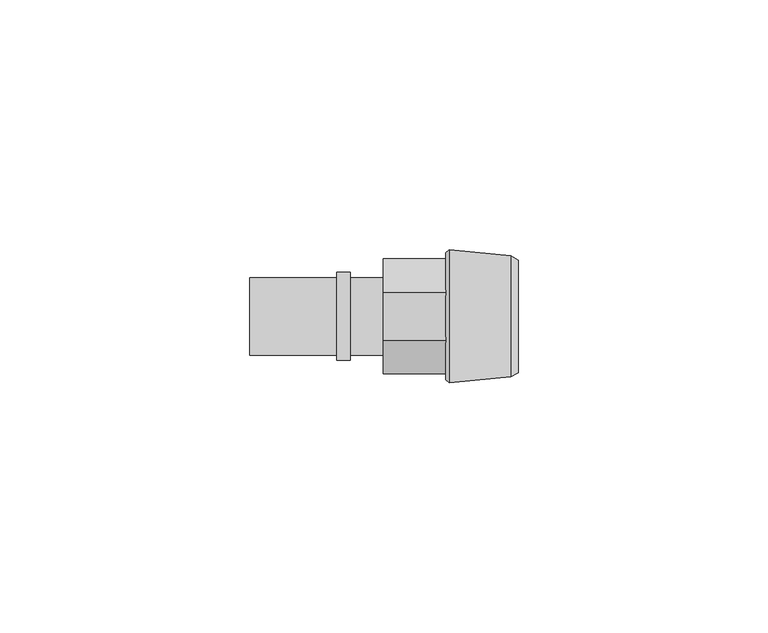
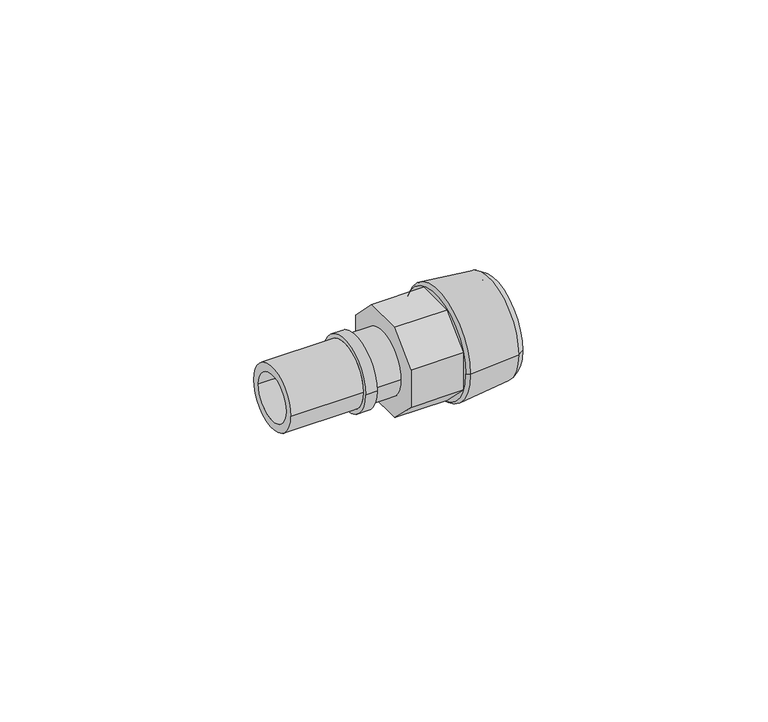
"""IFC4 building model written with IfcOpenShell, lengths in millimetres: pipe fitting geometry, FASTLOC_Adapter_LX, with external thread : FSL A C external PL."""

from ifc_helpers import new_model, si_unit, frame, origin, place, context, project, spatial, polyline, circle_curve, outline, extrude, source, transform, mapped, element, save
from ifc_brep_helpers import plane_surface, cylinder_surface, revolved_surface, advanced_brep


def pipe_fitting_238fadd8(model_context):
    return source(origin(), model_context, "Body", "SolidModel", [
        extrude(outline(polyline([(-11.5, 4.763456), (-4.763456, 11.5), (4.763456, 11.5), (11.5, 4.763456), (11.5, -4.763456), (4.763456, -11.5), (-4.763456, -11.5), (-11.5, -4.763456), (-11.5, 4.763456)])), frame((0.0, 0.0, 0.0), z_axis=(1.0, 0.0, 0.0), x_axis=(0.0, 1.0, 0.0)), (0.0, 0.0, 1.0), 12.5),
        advanced_brep(
        [(13.6032803, 9.5, 0.0), (13.6032803, -9.5, 0.0), (27.0, -9.5, 0.0), (27.0, 9.5, 0.0), (12.5, 8.3967197, 0.0), (12.5, -8.3967197, 0.0), (13.2406902, 13.3, 0.0), (13.2406902, -13.3, 0.0), (12.5, -12.7, 0.0), (12.5, 12.7, 0.0), (25.5000007, 12.1, 0.0), (25.5000007, -12.1, 0.0), (27.0, 11.25, 0.0), (27.0, -11.25, 0.0)],
        [
            (0, 1, circle_curve(frame((13.6032803, 0.0, 0.0), z_axis=(-1.0, 0.0, 0.0), x_axis=(0.0, -1.0, 0.0)), 9.5)),
            (1, 2),
            (2, 3, circle_curve(frame((27.0, 0.0, 0.0), z_axis=(1.0, 0.0, 0.0), x_axis=(0.0, -1.0, 0.0)), 9.5)),
            (3, 0),
            (4, 5, circle_curve(frame((12.5, 0.0, 0.0), z_axis=(-1.0, 0.0, 0.0), x_axis=(0.0, -1.0, 0.0)), 8.3967197)),
            (5, 1),
            (0, 4),
            (6, 7, circle_curve(frame((13.2406902, 0.0, 0.0), z_axis=(-1.0, 0.0, 0.0), x_axis=(0.0, -1.0, 0.0)), 13.3)),
            (7, 8),
            (8, 9, circle_curve(frame((12.5, 0.0, 0.0), z_axis=(1.0, 0.0, 0.0), x_axis=(0.0, -1.0, 0.0)), 12.7)),
            (9, 6),
            (10, 11, circle_curve(frame((25.5000007, 0.0, 0.0), z_axis=(-1.0, 0.0, 0.0), x_axis=(0.0, -1.0, 0.0)), 12.1)),
            (11, 7),
            (6, 10),
            (12, 13, circle_curve(frame((27.0, 0.0, 0.0), z_axis=(-1.0, 0.0, 0.0), x_axis=(0.0, -1.0, 0.0)), 11.25)),
            (13, 11),
            (10, 12),
            (1, 0, circle_curve(frame((13.6032803, 0.0, 0.0), z_axis=(-1.0, 0.0, 0.0), x_axis=(0.0, 1.0, 0.0)), 9.5)),
            (3, 2, circle_curve(frame((27.0, 0.0, 0.0), z_axis=(1.0, 0.0, 0.0), x_axis=(0.0, 1.0, 0.0)), 9.5)),
            (5, 4, circle_curve(frame((12.5, 0.0, 0.0), z_axis=(-1.0, 0.0, 0.0), x_axis=(0.0, 1.0, 0.0)), 8.3967197)),
            (8, 9, circle_curve(frame((12.5, 0.0, 0.0), z_axis=(-1.0, 0.0, 0.0), x_axis=(0.0, 1.0, 0.0)), 12.7)),
            (7, 6, circle_curve(frame((13.2406902, 0.0, 0.0), z_axis=(-1.0, 0.0, 0.0), x_axis=(0.0, 1.0, 0.0)), 13.3)),
            (11, 10, circle_curve(frame((25.5000007, 0.0, 0.0), z_axis=(-1.0, 0.0, 0.0), x_axis=(0.0, 1.0, 0.0)), 12.1)),
            (13, 12, circle_curve(frame((27.0, 0.0, 0.0), z_axis=(-1.0, 0.0, 0.0), x_axis=(0.0, 1.0, 0.0)), 11.25)),
        ],
        [
            revolved_surface(polyline([(27.0, -9.5, 0.0), (13.6032803, -9.5, 0.0)]), (0.0, 0.0, 0.0), (1.0, 0.0, 0.0)),
            revolved_surface(polyline([(13.6032803, -9.5, 0.0), (12.5, -8.3967197, 0.0)]), (0.0, 0.0, 0.0), (1.0, 0.0, 0.0)),
            revolved_surface(polyline([(12.5, -12.7, 0.0), (13.2406902, -13.3, 0.0)]), (0.0, 0.0, 0.0), (1.0, 0.0, 0.0)),
            revolved_surface(polyline([(13.2406902, -13.3, 0.0), (25.5000007, -12.1, 0.0)]), (0.0, 0.0, 0.0), (1.0, 0.0, 0.0)),
            revolved_surface(polyline([(25.5000007, -12.1, 0.0), (27.0, -11.25, 0.0)]), (0.0, 0.0, 0.0), (1.0, 0.0, 0.0)),
            revolved_surface(polyline([(27.0, 9.5, 0.0), (13.6032803, 9.5, 0.0)]), (0.0, 0.0, 0.0), (1.0, 0.0, 0.0)),
            revolved_surface(polyline([(13.6032803, 9.5, 0.0), (12.5, 8.3967197, 0.0)]), (0.0, 0.0, 0.0), (1.0, 0.0, 0.0)),
            plane_surface(frame((12.5, 0.0, 0.0), z_axis=(-1.0, 0.0, 0.0), x_axis=(0.0, 1.0, 0.0))),
            revolved_surface(polyline([(12.5, 12.7, 0.0), (13.2406902, 13.3, 0.0)]), (0.0, 0.0, 0.0), (1.0, 0.0, 0.0)),
            revolved_surface(polyline([(13.2406902, 13.3, 0.0), (25.5000007, 12.1, 0.0)]), (0.0, 0.0, 0.0), (1.0, 0.0, 0.0)),
            revolved_surface(polyline([(25.5000007, 12.1, 0.0), (27.0, 11.25, 0.0)]), (0.0, 0.0, 0.0), (1.0, 0.0, 0.0)),
            plane_surface(frame((27.0, 0.0, 0.0), z_axis=(1.0, 0.0, 0.0), x_axis=(0.0, 1.0, 0.0))),
        ],
        [
            (0, [[1, 2, 3, 4]]),
            (1, [[5, 6, -1, 7]]),
            (2, [[8, 9, 10, 11]]),
            (3, [[12, 13, -8, 14]]),
            (4, [[15, 16, -12, 17]]),
            (5, [[18, -4, 19, -2]]),
            (6, [[20, -7, -18, -6]]),
            (7, [[21, -10], [-20, -5]]),
            (8, [[22, -11, -21, -9]]),
            (9, [[23, -14, -22, -13]]),
            (10, [[24, -17, -23, -16]]),
            (11, [[-24, -15], [-19, -3]]),
        ],
    ),
        advanced_brep(
        [(-9.3, 7.75, 0.0), (-9.3, -7.75, 0.0), (-26.7, -7.75, 0.0), (-26.7, 7.75, 0.0), (-6.6, 8.8, 0.0), (-6.6, -8.8, 0.0), (-9.3, -8.8, 0.0), (-9.3, 8.8, 0.0), (0.0, 7.75, 0.0), (0.0, -7.75, 0.0), (-6.6, -7.75, 0.0), (-6.6, 7.75, 0.0), (-26.7, 5.75, 0.0), (-26.7, -5.75, 0.0), (0.0, -5.75, 0.0), (0.0, 5.75, 0.0)],
        [
            (0, 1, circle_curve(frame((-9.3, 0.0, 0.0), z_axis=(-1.0, 0.0, 0.0), x_axis=(0.0, -1.0, 0.0)), 7.75)),
            (1, 2),
            (2, 3, circle_curve(frame((-26.7, 0.0, 0.0), z_axis=(1.0, 0.0, 0.0), x_axis=(0.0, -1.0, 0.0)), 7.75)),
            (3, 0),
            (4, 5, circle_curve(frame((-6.6, 0.0, 0.0), z_axis=(-1.0, 0.0, 0.0), x_axis=(0.0, -1.0, 0.0)), 8.8)),
            (5, 6),
            (6, 7, circle_curve(frame((-9.3, 0.0, 0.0), z_axis=(1.0, 0.0, 0.0), x_axis=(0.0, -1.0, 0.0)), 8.8)),
            (7, 4),
            (8, 9, circle_curve(frame((0.0, 0.0, 0.0), z_axis=(-1.0, 0.0, 0.0), x_axis=(0.0, -1.0, 0.0)), 7.75)),
            (9, 10),
            (10, 11, circle_curve(frame((-6.6, 0.0, 0.0), z_axis=(1.0, 0.0, 0.0), x_axis=(0.0, -1.0, 0.0)), 7.75)),
            (11, 8),
            (12, 13, circle_curve(frame((-26.7, 0.0, 0.0), z_axis=(-1.0, 0.0, 0.0), x_axis=(0.0, -1.0, 0.0)), 5.75)),
            (13, 14),
            (14, 15, circle_curve(frame((0.0, 0.0, 0.0), z_axis=(1.0, 0.0, 0.0), x_axis=(0.0, -1.0, 0.0)), 5.75)),
            (15, 12),
            (2, 3, circle_curve(frame((-26.7, 0.0, 0.0), z_axis=(-1.0, 0.0, 0.0), x_axis=(0.0, 1.0, 0.0)), 7.75)),
            (12, 13, circle_curve(frame((-26.7, 0.0, 0.0), z_axis=(1.0, 0.0, 0.0), x_axis=(0.0, 1.0, 0.0)), 5.75)),
            (1, 0, circle_curve(frame((-9.3, 0.0, 0.0), z_axis=(-1.0, 0.0, 0.0), x_axis=(0.0, 1.0, 0.0)), 7.75)),
            (6, 7, circle_curve(frame((-9.3, 0.0, 0.0), z_axis=(-1.0, 0.0, 0.0), x_axis=(0.0, 1.0, 0.0)), 8.8)),
            (5, 4, circle_curve(frame((-6.6, 0.0, 0.0), z_axis=(-1.0, 0.0, 0.0), x_axis=(0.0, 1.0, 0.0)), 8.8)),
            (10, 11, circle_curve(frame((-6.6, 0.0, 0.0), z_axis=(-1.0, 0.0, 0.0), x_axis=(0.0, 1.0, 0.0)), 7.75)),
            (9, 8, circle_curve(frame((0.0, 0.0, 0.0), z_axis=(-1.0, 0.0, 0.0), x_axis=(0.0, 1.0, 0.0)), 7.75)),
            (14, 15, circle_curve(frame((0.0, 0.0, 0.0), z_axis=(-1.0, 0.0, 0.0), x_axis=(0.0, 1.0, 0.0)), 5.75)),
        ],
        [
            cylinder_surface(frame((0.0, 0.0, 0.0), z_axis=(1.0, 0.0, 0.0), x_axis=(0.0, -1.0, 0.0)), 7.75),
            cylinder_surface(frame((0.0, 0.0, 0.0), z_axis=(1.0, 0.0, 0.0), x_axis=(0.0, -1.0, 0.0)), 8.8),
            revolved_surface(polyline([(0.0, -5.75, 0.0), (-26.7, -5.75, 0.0)]), (0.0, 0.0, 0.0), (1.0, 0.0, 0.0)),
            plane_surface(frame((-26.7, 0.0, 0.0), z_axis=(-1.0, 0.0, 0.0), x_axis=(0.0, 1.0, 0.0))),
            cylinder_surface(frame((0.0, 0.0, 0.0), z_axis=(1.0, 0.0, 0.0), x_axis=(0.0, 1.0, 0.0)), 7.75),
            plane_surface(frame((-9.3, 0.0, 0.0), z_axis=(-1.0, 0.0, 0.0), x_axis=(0.0, 1.0, 0.0))),
            cylinder_surface(frame((0.0, 0.0, 0.0), z_axis=(1.0, 0.0, 0.0), x_axis=(0.0, 1.0, 0.0)), 8.8),
            plane_surface(frame((-6.6, 0.0, 0.0), z_axis=(1.0, 0.0, 0.0), x_axis=(0.0, 1.0, 0.0))),
            plane_surface(frame((0.0, 0.0, 0.0), z_axis=(1.0, 0.0, 0.0), x_axis=(0.0, 1.0, 0.0))),
            revolved_surface(polyline([(0.0, 5.75, 0.0), (-26.7, 5.75, 0.0)]), (0.0, 0.0, 0.0), (1.0, 0.0, 0.0)),
        ],
        [
            (0, [[1, 2, 3, 4]]),
            (1, [[5, 6, 7, 8]]),
            (0, [[9, 10, 11, 12]]),
            (2, [[13, 14, 15, 16]]),
            (3, [[17, -3], [18, -13]]),
            (4, [[19, -4, -17, -2]]),
            (5, [[20, -7], [-19, -1]]),
            (6, [[21, -8, -20, -6]]),
            (7, [[-21, -5], [22, -11]]),
            (4, [[23, -12, -22, -10]]),
            (8, [[-23, -9], [24, -15]]),
            (9, [[-18, -16, -24, -14]]),
        ],
    ),
    ])


if __name__ == "__main__":
    model = new_model("IFC4")
    model_context = context("Model", 3, world=origin())
    ifc_project = project(units=[si_unit("LENGTHUNIT", "METRE", prefix="MILLI")], contexts=[model_context])
    site = spatial("IfcSite", under=ifc_project)
    building = spatial("IfcBuilding", under=site)
    placement = place(None, origin())
    pipe_fitting_shape = pipe_fitting_238fadd8(model_context)
    element("IfcPipeFitting", 1, ObjectType="FASTLOC_Adapter_LX, with external thread : FSL A C external PL", at=placement, inside=building, context=model_context, shape_type="MappedRepresentation", body=[
        mapped(pipe_fitting_shape, transform((0.0, 0.0, 0.0), x_axis=(1.0, 0.0, 0.0), y_axis=(0.0, 1.0, 0.0), z_axis=(0.0, 0.0, 1.0))),
    ])
    save(model, "model.ifc")
